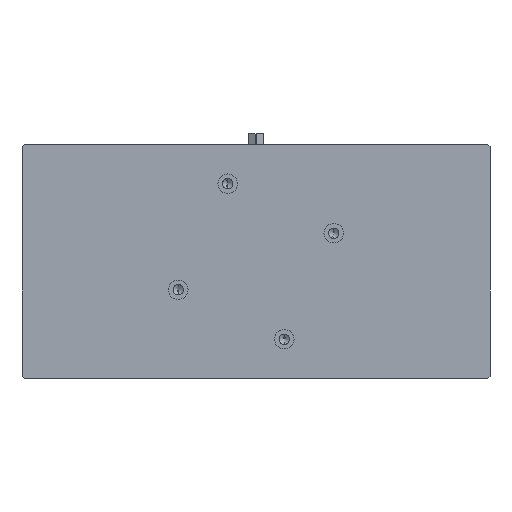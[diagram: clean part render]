
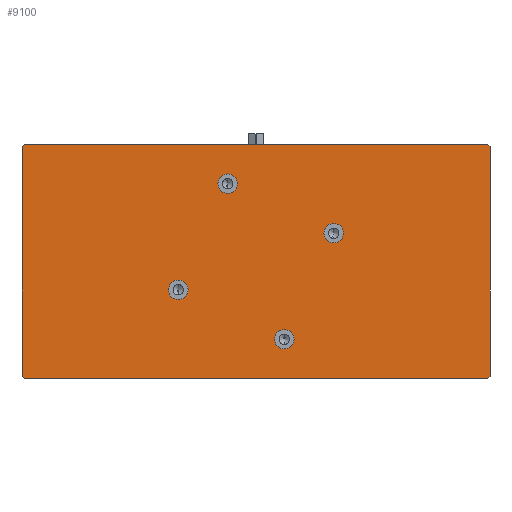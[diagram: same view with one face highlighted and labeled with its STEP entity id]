
A CAD part, front view. The second image highlights one B-rep face of the part: STEP entity #9100.
In plain terms, the highlighted planar face has unit normal (0, -1, 0).
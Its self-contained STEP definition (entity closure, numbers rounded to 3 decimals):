
#144 = EDGE_CURVE ( 'NONE', #7358, #7567, #5087, .T. ) ;
#171 = EDGE_CURVE ( 'NONE', #7598, #7595, #4629, .T. ) ;
#186 = EDGE_CURVE ( 'NONE', #7330, #7562, #4833, .T. ) ;
#188 = EDGE_CURVE ( 'NONE', #7427, #7568, #4839, .T. ) ;
#257 = EDGE_CURVE ( 'NONE', #7566, #7399, #5250, .T. ) ;
#307 = EDGE_CURVE ( 'NONE', #7572, #7479, #6084, .T. ) ;
#372 = EDGE_CURVE ( 'NONE', #7598, #7428, #6860, .T. ) ;
#380 = EDGE_CURVE ( 'NONE', #7371, #7560, #1776, .T. ) ;
#381 = EDGE_CURVE ( 'NONE', #7519, #7567, #6890, .T. ) ;
#382 = EDGE_CURVE ( 'NONE', #7358, #7595, #6895, .T. ) ;
#689 = CARTESIAN_POINT ( 'NONE',  ( -23.217, 0., 63.788 ) ) ;
#690 = DIRECTION ( 'NONE',  ( 0., -1., 0. ) ) ;
#691 = DIRECTION ( 'NONE',  ( 0., 0., -1. ) ) ;
#719 = CARTESIAN_POINT ( 'NONE',  ( 23.217, 0., -63.788 ) ) ;
#720 = DIRECTION ( 'NONE',  ( 0., -1., 0. ) ) ;
#721 = DIRECTION ( 'NONE',  ( 0., 0., -1. ) ) ;
#941 = CARTESIAN_POINT ( 'NONE',  ( 63.788, 0., 23.217 ) ) ;
#942 = DIRECTION ( 'NONE',  ( 0., -1., 0. ) ) ;
#943 = DIRECTION ( 'NONE',  ( 0., 0., -1. ) ) ;
#1238 = LINE ( 'NONE', #1239, #6676 ) ;
#1239 = CARTESIAN_POINT ( 'NONE',  ( 192., 0., 96. ) ) ;
#1240 = DIRECTION ( 'NONE',  ( 0., 0., -1. ) ) ;
#1705 = LINE ( 'NONE', #1706, #6730 ) ;
#1706 = CARTESIAN_POINT ( 'NONE',  ( -192., 0., 96. ) ) ;
#1707 = DIRECTION ( 'NONE',  ( 1., 0., 0. ) ) ;
#1766 = VECTOR ( 'NONE', #6894, 1000. ) ;
#1767 = VECTOR ( 'NONE', #6862, 1000. ) ;
#1776 = CIRCLE ( 'NONE', #1779, 8. ) ;
#1779 = AXIS2_PLACEMENT_3D ( 'NONE', #6891, #6892, #6893 ) ;
#1780 = VECTOR ( 'NONE', #6897, 1000. ) ;
#2335 = CARTESIAN_POINT ( 'NONE',  ( -63.788, 0., -23.217 ) ) ;
#2336 = DIRECTION ( 'NONE',  ( 0., -1., 0. ) ) ;
#2337 = DIRECTION ( 'NONE',  ( 0., 0., -1. ) ) ;
#3208 = PLANE ( 'NONE',  #3577 ) ;
#3215 = FACE_OUTER_BOUND ( 'NONE', #7322, .T. ) ;
#3216 = FACE_BOUND ( 'NONE', #8798, .T. ) ;
#3218 = FACE_BOUND ( 'NONE', #8792, .T. ) ;
#3219 = CARTESIAN_POINT ( 'NONE',  ( 192., 0., -96. ) ) ;
#3220 = FACE_BOUND ( 'NONE', #7320, .T. ) ;
#3222 = FACE_BOUND ( 'NONE', #8783, .T. ) ;
#3223 = DIRECTION ( 'NONE',  ( 0., -1., 0. ) ) ;
#3224 = DIRECTION ( 'NONE',  ( 0., 0., -1. ) ) ;
#3577 = AXIS2_PLACEMENT_3D ( 'NONE', #3219, #3223, #3224 ) ;
#3740 = CIRCLE ( 'NONE', #6613, 8. ) ;
#3775 = ORIENTED_EDGE ( 'NONE', *, *, #186, .F. ) ;
#3776 = ORIENTED_EDGE ( 'NONE', *, *, #9302, .F. ) ;
#3777 = ORIENTED_EDGE ( 'NONE', *, *, #188, .F. ) ;
#3778 = ORIENTED_EDGE ( 'NONE', *, *, #9281, .F. ) ;
#3779 = ORIENTED_EDGE ( 'NONE', *, *, #380, .F. ) ;
#3780 = ORIENTED_EDGE ( 'NONE', *, *, #9245, .F. ) ;
#3781 = ORIENTED_EDGE ( 'NONE', *, *, #257, .F. ) ;
#3782 = ORIENTED_EDGE ( 'NONE', *, *, #9272, .F. ) ;
#3783 = ORIENTED_EDGE ( 'NONE', *, *, #144, .F. ) ;
#3784 = ORIENTED_EDGE ( 'NONE', *, *, #382, .T. ) ;
#3785 = ORIENTED_EDGE ( 'NONE', *, *, #171, .F. ) ;
#3786 = ORIENTED_EDGE ( 'NONE', *, *, #372, .T. ) ;
#3787 = ORIENTED_EDGE ( 'NONE', *, *, #9332, .F. ) ;
#3788 = ORIENTED_EDGE ( 'NONE', *, *, #307, .T. ) ;
#3789 = ORIENTED_EDGE ( 'NONE', *, *, #9391, .F. ) ;
#3790 = ORIENTED_EDGE ( 'NONE', *, *, #381, .T. ) ;
#4430 = CARTESIAN_POINT ( 'NONE',  ( -23.217, 0., 63.788 ) ) ;
#4431 = DIRECTION ( 'NONE',  ( 0., -1., 0. ) ) ;
#4432 = DIRECTION ( 'NONE',  ( 0., 0., -1. ) ) ;
#4629 = LINE ( 'NONE', #4635, #6415 ) ;
#4635 = CARTESIAN_POINT ( 'NONE',  ( -192., 0., -96. ) ) ;
#4636 = DIRECTION ( 'NONE',  ( -1., 0., 0. ) ) ;
#4679 = CARTESIAN_POINT ( 'NONE',  ( 63.788, 0., 23.217 ) ) ;
#4680 = DIRECTION ( 'NONE',  ( 0., -1., 0. ) ) ;
#4681 = DIRECTION ( 'NONE',  ( 0., 0., -1. ) ) ;
#4686 = CARTESIAN_POINT ( 'NONE',  ( 23.217, 0., -63.788 ) ) ;
#4687 = DIRECTION ( 'NONE',  ( 0., -1., 0. ) ) ;
#4688 = DIRECTION ( 'NONE',  ( 0., 0., -1. ) ) ;
#4833 = CIRCLE ( 'NONE', #4840, 8. ) ;
#4839 = CIRCLE ( 'NONE', #4844, 8. ) ;
#4840 = AXIS2_PLACEMENT_3D ( 'NONE', #4679, #4680, #4681 ) ;
#4844 = AXIS2_PLACEMENT_3D ( 'NONE', #4686, #4687, #4688 ) ;
#5078 = CARTESIAN_POINT ( 'NONE',  ( -192., 0., 96. ) ) ;
#5087 = LINE ( 'NONE', #5078, #7006 ) ;
#5091 = DIRECTION ( 'NONE',  ( 0., 0., 1. ) ) ;
#5168 = VECTOR ( 'NONE', #6111, 1000. ) ;
#5250 = CIRCLE ( 'NONE', #5253, 8. ) ;
#5253 = AXIS2_PLACEMENT_3D ( 'NONE', #4430, #4431, #4432 ) ;
#6084 = LINE ( 'NONE', #6109, #5168 ) ;
#6109 = CARTESIAN_POINT ( 'NONE',  ( 287., 0., -1. ) ) ;
#6111 = DIRECTION ( 'NONE',  ( -0.707, 0., 0.707 ) ) ;
#6415 = VECTOR ( 'NONE', #4636, 1000. ) ;
#6613 = AXIS2_PLACEMENT_3D ( 'NONE', #689, #690, #691 ) ;
#6629 = CIRCLE ( 'NONE', #6632, 8. ) ;
#6632 = AXIS2_PLACEMENT_3D ( 'NONE', #719, #720, #721 ) ;
#6646 = CIRCLE ( 'NONE', #6648, 8. ) ;
#6648 = AXIS2_PLACEMENT_3D ( 'NONE', #941, #942, #943 ) ;
#6676 = VECTOR ( 'NONE', #1240, 1000. ) ;
#6730 = VECTOR ( 'NONE', #1707, 1000. ) ;
#6860 = LINE ( 'NONE', #6861, #1767 ) ;
#6861 = CARTESIAN_POINT ( 'NONE',  ( 191., 0., -95. ) ) ;
#6862 = DIRECTION ( 'NONE',  ( 0.707, 0., 0.707 ) ) ;
#6885 = CARTESIAN_POINT ( 'NONE',  ( -95., 0., 191. ) ) ;
#6890 = LINE ( 'NONE', #6885, #1766 ) ;
#6891 = CARTESIAN_POINT ( 'NONE',  ( -63.788, 0., -23.217 ) ) ;
#6892 = DIRECTION ( 'NONE',  ( 0., -1., 0. ) ) ;
#6893 = DIRECTION ( 'NONE',  ( 0., 0., -1. ) ) ;
#6894 = DIRECTION ( 'NONE',  ( -0.707, 0., -0.707 ) ) ;
#6895 = LINE ( 'NONE', #6896, #1780 ) ;
#6896 = CARTESIAN_POINT ( 'NONE',  ( 1., 0., -287. ) ) ;
#6897 = DIRECTION ( 'NONE',  ( 0.707, 0., -0.707 ) ) ;
#7006 = VECTOR ( 'NONE', #5091, 1000. ) ;
#7113 = CIRCLE ( 'NONE', #7120, 8. ) ;
#7120 = AXIS2_PLACEMENT_3D ( 'NONE', #2335, #2336, #2337 ) ;
#7320 = EDGE_LOOP ( 'NONE', ( #3779, #3780 ) ) ;
#7322 = EDGE_LOOP ( 'NONE', ( #3783, #3784, #3785, #3786, #3787, #3788, #3789, #3790 ) ) ;
#7330 = VERTEX_POINT ( 'NONE', #7622 ) ;
#7358 = VERTEX_POINT ( 'NONE', #7676 ) ;
#7371 = VERTEX_POINT ( 'NONE', #7702 ) ;
#7399 = VERTEX_POINT ( 'NONE', #7758 ) ;
#7427 = VERTEX_POINT ( 'NONE', #7814 ) ;
#7428 = VERTEX_POINT ( 'NONE', #7816 ) ;
#7479 = VERTEX_POINT ( 'NONE', #7918 ) ;
#7519 = VERTEX_POINT ( 'NONE', #7998 ) ;
#7560 = VERTEX_POINT ( 'NONE', #8080 ) ;
#7562 = VERTEX_POINT ( 'NONE', #8084 ) ;
#7566 = VERTEX_POINT ( 'NONE', #8092 ) ;
#7567 = VERTEX_POINT ( 'NONE', #8094 ) ;
#7568 = VERTEX_POINT ( 'NONE', #8096 ) ;
#7572 = VERTEX_POINT ( 'NONE', #8104 ) ;
#7595 = VERTEX_POINT ( 'NONE', #8150 ) ;
#7598 = VERTEX_POINT ( 'NONE', #8156 ) ;
#7622 = CARTESIAN_POINT ( 'NONE',  ( 63.788, 0., 15.217 ) ) ;
#7676 = CARTESIAN_POINT ( 'NONE',  ( -192., 0., -94. ) ) ;
#7702 = CARTESIAN_POINT ( 'NONE',  ( -63.788, 0., -31.217 ) ) ;
#7758 = CARTESIAN_POINT ( 'NONE',  ( -23.217, 0., 71.788 ) ) ;
#7814 = CARTESIAN_POINT ( 'NONE',  ( 23.217, 0., -71.788 ) ) ;
#7816 = CARTESIAN_POINT ( 'NONE',  ( 192., 0., -94. ) ) ;
#7918 = CARTESIAN_POINT ( 'NONE',  ( 190., 0., 96. ) ) ;
#7998 = CARTESIAN_POINT ( 'NONE',  ( -190., 0., 96. ) ) ;
#8080 = CARTESIAN_POINT ( 'NONE',  ( -63.788, 0., -15.217 ) ) ;
#8084 = CARTESIAN_POINT ( 'NONE',  ( 63.788, 0., 31.217 ) ) ;
#8092 = CARTESIAN_POINT ( 'NONE',  ( -23.217, 0., 55.788 ) ) ;
#8094 = CARTESIAN_POINT ( 'NONE',  ( -192., 0., 94. ) ) ;
#8096 = CARTESIAN_POINT ( 'NONE',  ( 23.217, 0., -55.788 ) ) ;
#8104 = CARTESIAN_POINT ( 'NONE',  ( 192., 0., 94. ) ) ;
#8150 = CARTESIAN_POINT ( 'NONE',  ( -190., 0., -96. ) ) ;
#8156 = CARTESIAN_POINT ( 'NONE',  ( 190., 0., -96. ) ) ;
#8783 = EDGE_LOOP ( 'NONE', ( #3781, #3782 ) ) ;
#8792 = EDGE_LOOP ( 'NONE', ( #3777, #3778 ) ) ;
#8798 = EDGE_LOOP ( 'NONE', ( #3775, #3776 ) ) ;
#9100 = ADVANCED_FACE ( 'NONE', ( #3216, #3218, #3220, #3222, #3215 ), #3208, .T. ) ;
#9245 = EDGE_CURVE ( 'NONE', #7560, #7371, #7113, .T. ) ;
#9272 = EDGE_CURVE ( 'NONE', #7399, #7566, #3740, .T. ) ;
#9281 = EDGE_CURVE ( 'NONE', #7568, #7427, #6629, .T. ) ;
#9302 = EDGE_CURVE ( 'NONE', #7562, #7330, #6646, .T. ) ;
#9332 = EDGE_CURVE ( 'NONE', #7572, #7428, #1238, .T. ) ;
#9391 = EDGE_CURVE ( 'NONE', #7519, #7479, #1705, .T. ) ;
